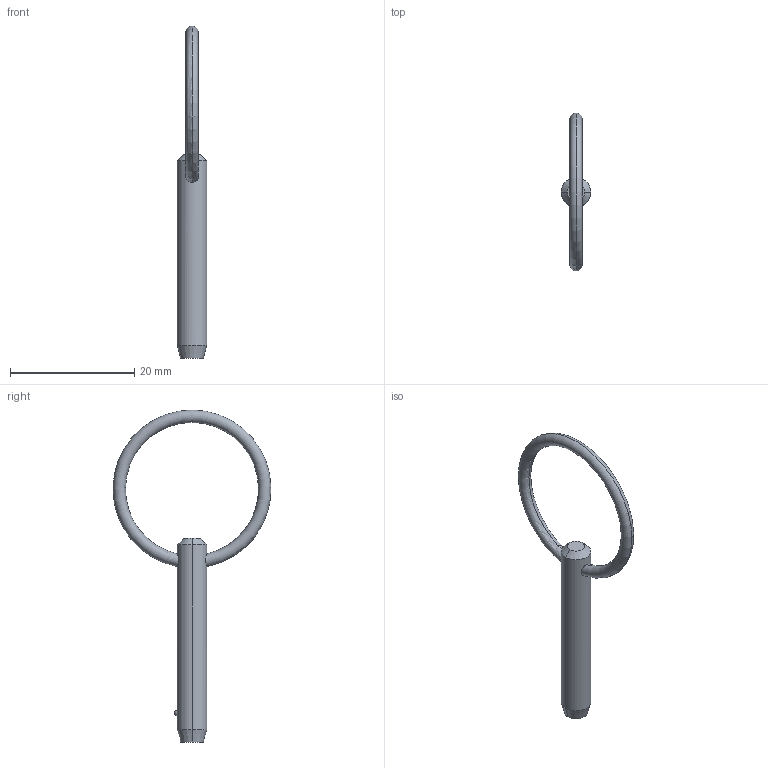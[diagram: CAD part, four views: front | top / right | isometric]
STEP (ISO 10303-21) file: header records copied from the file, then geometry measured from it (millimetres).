
FILE_DESCRIPTION (( 'STEP AP203' ), '1' );
FILE_NAME ('P1250.018-090.step', '2019-07-29T19:30:28', ( '' ), ( '' ), 'SwSTEP 2.0', 'SolidWorks 2017', '' );
FILE_SCHEMA (( 'CONFIG_CONTROL_DESIGN' ));
Length unit declared in the file: millimetre
Products named in the file (1): P1250.018-090
Bounding box: 4.76 x 25.4 x 53.38 mm (x, y, z)
Volume: 784.8 mm3; surface area: 932.5 mm2
Topology: 1 solids, 1 shells, 12 faces, 28 edges, 17 vertices
Faces by surface type: cone 4, torus 2, sphere 2, cylinder 2, plane 2
Entity records: 471 total; most frequent: CARTESIAN_POINT 138, DIRECTION 56, ORIENTED_EDGE 48, AXIS2_PLACEMENT_3D 25, EDGE_CURVE 24, VERTEX_POINT 15, EDGE_LOOP 15, FACE_OUTER_BOUND 12
